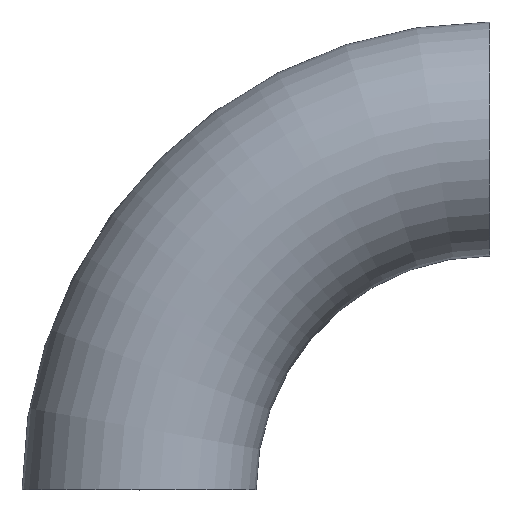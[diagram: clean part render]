
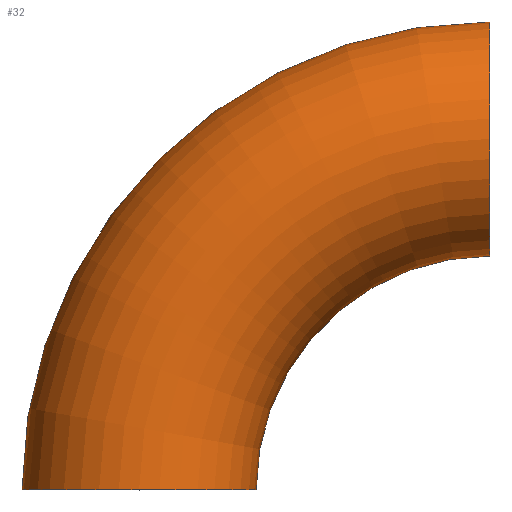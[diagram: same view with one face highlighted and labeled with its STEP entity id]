
A CAD part, top view. The second image highlights one B-rep face of the part: STEP entity #32.
In plain terms, the highlighted toroidal (fillet/blend) face has major radius 533 mm and minor radius 177.8 mm.
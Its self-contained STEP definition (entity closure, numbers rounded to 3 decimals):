
#12 = CARTESIAN_POINT ( 'NONE',  ( 533., 355.2, 0. ) ) ;
#17 = FACE_OUTER_BOUND ( 'NONE', #238, .T. ) ;
#21 = VERTEX_POINT ( 'NONE', #120 ) ;
#22 = AXIS2_PLACEMENT_3D ( 'NONE', #68, #109, #247 ) ;
#25 = CARTESIAN_POINT ( 'NONE',  ( 533., 710.8, 0. ) ) ;
#32 = ADVANCED_FACE ( 'NONE', ( #17 ), #236, .T. ) ;
#33 = EDGE_CURVE ( 'NONE', #39, #235, #157, .T. ) ;
#39 = VERTEX_POINT ( 'NONE', #25 ) ;
#44 = DIRECTION ( 'NONE',  ( 0., 1., 0. ) ) ;
#48 = CARTESIAN_POINT ( 'NONE',  ( 533., 0., 0. ) ) ;
#52 = CARTESIAN_POINT ( 'NONE',  ( -177.8, 0., 0. ) ) ;
#56 = CIRCLE ( 'NONE', #80, 177.8 ) ;
#64 = ORIENTED_EDGE ( 'NONE', *, *, #67, .T. ) ;
#67 = EDGE_CURVE ( 'NONE', #235, #21, #56, .T. ) ;
#68 = CARTESIAN_POINT ( 'NONE',  ( 533., 533., 0. ) ) ;
#80 = AXIS2_PLACEMENT_3D ( 'NONE', #185, #44, #123 ) ;
#85 = AXIS2_PLACEMENT_3D ( 'NONE', #129, #106, #89 ) ;
#89 = DIRECTION ( 'NONE',  ( 1., 0., 0. ) ) ;
#90 = AXIS2_PLACEMENT_3D ( 'NONE', #242, #161, #241 ) ;
#101 = DIRECTION ( 'NONE',  ( 1., 0., 0. ) ) ;
#106 = DIRECTION ( 'NONE',  ( 0., 0., 1. ) ) ;
#109 = DIRECTION ( 'NONE',  ( 1., 0., 0. ) ) ;
#112 = EDGE_CURVE ( 'NONE', #239, #21, #208, .T. ) ;
#120 = CARTESIAN_POINT ( 'NONE',  ( 177.8, 0., 0. ) ) ;
#123 = DIRECTION ( 'NONE',  ( 0., 0., 1. ) ) ;
#129 = CARTESIAN_POINT ( 'NONE',  ( 533., 0., 0. ) ) ;
#137 = ORIENTED_EDGE ( 'NONE', *, *, #112, .F. ) ;
#139 = EDGE_CURVE ( 'NONE', #39, #239, #148, .T. ) ;
#148 = CIRCLE ( 'NONE', #22, 177.8 ) ;
#154 = ORIENTED_EDGE ( 'NONE', *, *, #33, .T. ) ;
#157 = CIRCLE ( 'NONE', #206, 710.8 ) ;
#161 = DIRECTION ( 'NONE',  ( 0., 0., 1. ) ) ;
#185 = CARTESIAN_POINT ( 'NONE',  ( 0., 0., 0. ) ) ;
#206 = AXIS2_PLACEMENT_3D ( 'NONE', #48, #240, #101 ) ;
#208 = CIRCLE ( 'NONE', #85, 355.2 ) ;
#209 = ORIENTED_EDGE ( 'NONE', *, *, #139, .F. ) ;
#235 = VERTEX_POINT ( 'NONE', #52 ) ;
#236 = TOROIDAL_SURFACE ( 'NONE', #90, 533., 177.8 ) ;
#238 = EDGE_LOOP ( 'NONE', ( #209, #154, #64, #137 ) ) ;
#239 = VERTEX_POINT ( 'NONE', #12 ) ;
#240 = DIRECTION ( 'NONE',  ( 0., 0., 1. ) ) ;
#241 = DIRECTION ( 'NONE',  ( 1., 0., 0. ) ) ;
#242 = CARTESIAN_POINT ( 'NONE',  ( 533., 0., 0. ) ) ;
#247 = DIRECTION ( 'NONE',  ( 0., 0., 1. ) ) ;
